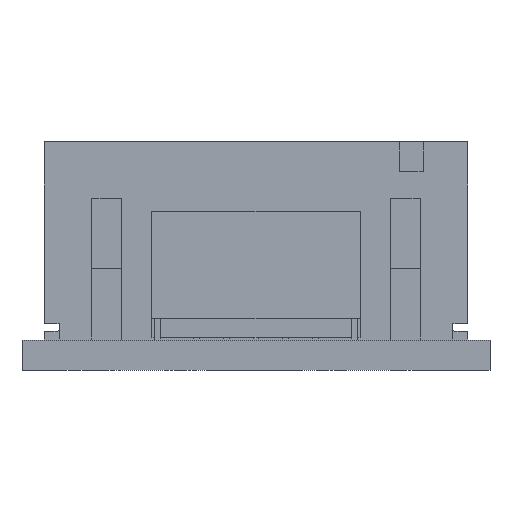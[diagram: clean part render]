
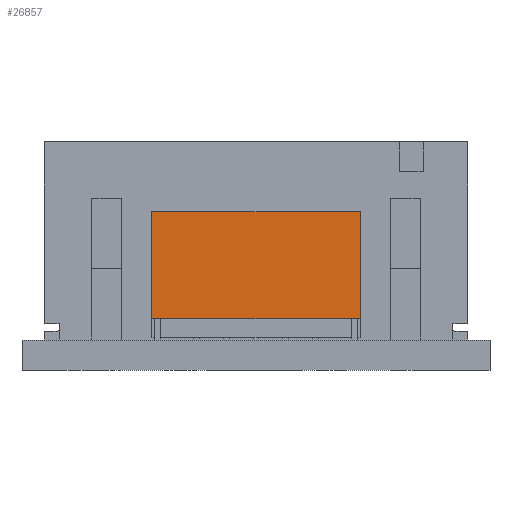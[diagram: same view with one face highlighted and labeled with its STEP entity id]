
A CAD part, front view. The second image highlights one B-rep face of the part: STEP entity #26857.
In plain terms, the highlighted planar face has unit normal (0, -1, 0).
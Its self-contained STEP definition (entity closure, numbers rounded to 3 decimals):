
#706 = CARTESIAN_POINT ( 'NONE',  ( 11.374, 4.265, 5.336 ) ) ;
#2036 = DIRECTION ( 'NONE',  ( 0., 0., -1. ) ) ;
#2348 = VECTOR ( 'NONE', #17910, 1000. ) ;
#2566 = CARTESIAN_POINT ( 'NONE',  ( 4.374, 4.265, 1.736 ) ) ;
#2577 = EDGE_CURVE ( 'NONE', #5788, #27312, #7436, .T. ) ;
#2932 = VERTEX_POINT ( 'NONE', #19072 ) ;
#3284 = EDGE_CURVE ( 'NONE', #35038, #5788, #12857, .T. ) ;
#5115 = EDGE_LOOP ( 'NONE', ( #33666, #22097, #31560, #26481 ) ) ;
#5788 = VERTEX_POINT ( 'NONE', #706 ) ;
#6745 = PLANE ( 'NONE',  #11121 ) ;
#7289 = DIRECTION ( 'NONE',  ( -1., 0., 0. ) ) ;
#7436 = LINE ( 'NONE', #18234, #30502 ) ;
#7464 = CARTESIAN_POINT ( 'NONE',  ( 4.374, 4.265, 5.336 ) ) ;
#7994 = VECTOR ( 'NONE', #13535, 1000. ) ;
#8625 = EDGE_CURVE ( 'NONE', #2932, #27312, #26693, .T. ) ;
#11121 = AXIS2_PLACEMENT_3D ( 'NONE', #15733, #26718, #7289 ) ;
#12603 = EDGE_CURVE ( 'NONE', #35038, #2932, #34315, .T. ) ;
#12857 = LINE ( 'NONE', #23844, #25403 ) ;
#13535 = DIRECTION ( 'NONE',  ( 1., 0., 0. ) ) ;
#15733 = CARTESIAN_POINT ( 'NONE',  ( 4.374, 4.265, 5.336 ) ) ;
#17910 = DIRECTION ( 'NONE',  ( 0., 0., -1. ) ) ;
#18234 = CARTESIAN_POINT ( 'NONE',  ( 11.374, 4.265, 5.336 ) ) ;
#19072 = CARTESIAN_POINT ( 'NONE',  ( 4.374, 4.265, 1.736 ) ) ;
#20425 = FACE_OUTER_BOUND ( 'NONE', #5115, .T. ) ;
#22097 = ORIENTED_EDGE ( 'NONE', *, *, #8625, .T. ) ;
#23844 = CARTESIAN_POINT ( 'NONE',  ( 4.374, 4.265, 5.336 ) ) ;
#25403 = VECTOR ( 'NONE', #32463, 1000. ) ;
#26481 = ORIENTED_EDGE ( 'NONE', *, *, #3284, .F. ) ;
#26693 = LINE ( 'NONE', #2566, #7994 ) ;
#26718 = DIRECTION ( 'NONE',  ( 0., 1., 0. ) ) ;
#26857 = ADVANCED_FACE ( 'NONE', ( #20425 ), #6745, .F. ) ;
#27161 = CARTESIAN_POINT ( 'NONE',  ( 11.374, 4.265, 1.736 ) ) ;
#27312 = VERTEX_POINT ( 'NONE', #27161 ) ;
#28996 = CARTESIAN_POINT ( 'NONE',  ( 4.374, 4.265, 5.336 ) ) ;
#30502 = VECTOR ( 'NONE', #2036, 1000. ) ;
#31560 = ORIENTED_EDGE ( 'NONE', *, *, #2577, .F. ) ;
#32463 = DIRECTION ( 'NONE',  ( 1., 0., 0. ) ) ;
#33666 = ORIENTED_EDGE ( 'NONE', *, *, #12603, .T. ) ;
#34315 = LINE ( 'NONE', #7464, #2348 ) ;
#35038 = VERTEX_POINT ( 'NONE', #28996 ) ;
